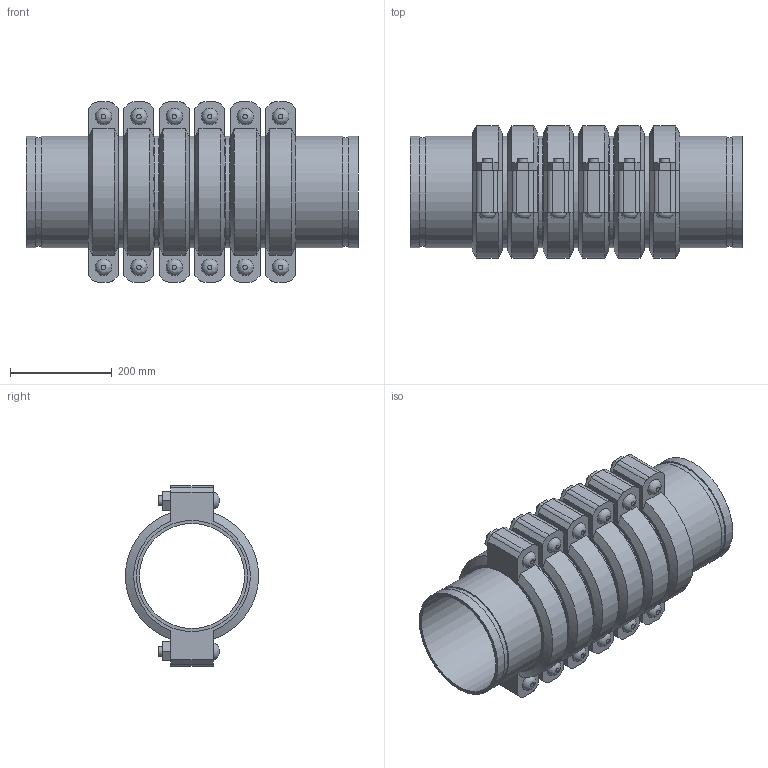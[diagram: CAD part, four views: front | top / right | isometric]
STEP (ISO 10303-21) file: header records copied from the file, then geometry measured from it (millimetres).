
FILE_DESCRIPTION(/* description */ ('VIC SS EXPANSION JOINT 6 COUPLINGS COMPRESSED STYLE 155P (OGS) (POTABLE WATER) ','CAx-IF Rec.Pracs.---Representation and Presentation of Product Manufacturing Information (PMI)---4.0---2014-10-13'),/* implementation_level */ '2;1');
FILE_NAME(/* name */ 'C:\Users\kkamble\AppData\Roaming\Autodesk\ApplicationPlugins\Victaulic.Temp\A518\Victaulic_SS_Expansion Joint_Compressed_6 Couplings_Style 155P (OGS)-Potable Water_6 Coup_Comp_8 (200).stp',/* time_stamp */ '2021-07-16T17:14:52+06:00',/* author */ ('kkamble'),/* organization */ ('Victaulic'),/* preprocessor_version */ 'ST-DEVELOPER v17.2',/* originating_system */ 'Autodesk Inventor 2019',/* authorisation */ '');
FILE_SCHEMA (('AP242_MANAGED_MODEL_BASED_3D_ENGINEERING_MIM_LF { 1 0 10303 442 1 1 4 }'));
Length unit declared in the file: inch
Products named in the file (4): 155-08.0; Nipple-08.0; Nipple-08.0_1; 075-08.0
Assembly tree (13 placements, depth 2):
  155-08.0
    Nipple-08.0  x2
    Nipple-08.0_1  x5
    075-08.0  x6
Bounding box: 654.05 x 261.72 x 354.84 mm (x, y, z)
Volume: 10688898.6 mm3; surface area: 1977206.6 mm2
Topology: 13 solids, 25 shells, 402 faces, 972 edges, 684 vertices
Faces by surface type: plane 246, cylinder 120, cone 24, bspline 12
Full cylindrical faces by diameter (mm): 19.05 x24, 21.209 x12, 206.985 x7, 214.401 x14, 219.075 x27
Entity records: 2705 total; most frequent: CARTESIAN_POINT 483, DIRECTION 451, ORIENTED_EDGE 374, EDGE_CURVE 187, AXIS2_PLACEMENT_3D 180, VERTEX_POINT 134, EDGE_LOOP 101, LINE 91
